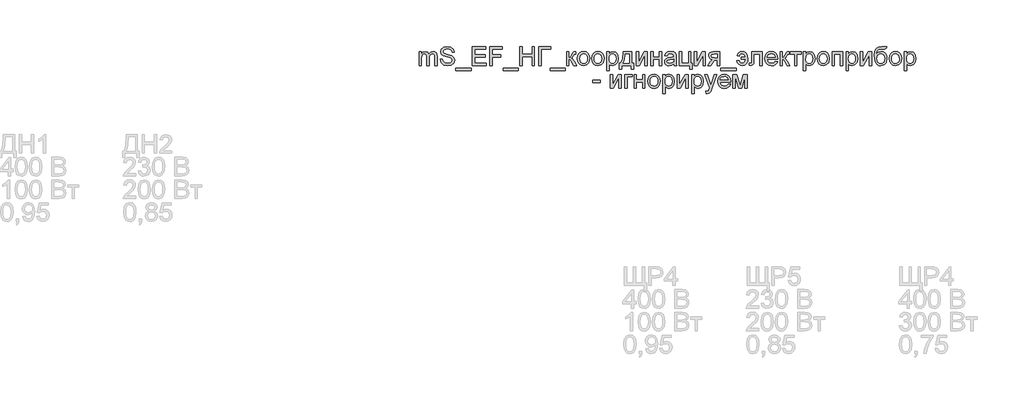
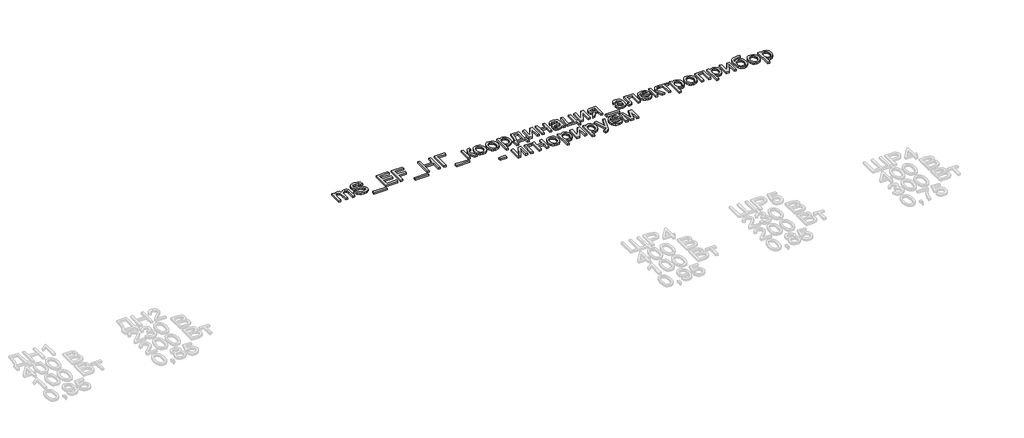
# One storey, part 2 of 3: 1 proxy.
"""IFC4 building model written with IfcOpenShell, lengths in millimetres."""

from ifc_helpers import new_model, si_unit, origin, origin_with_axes, place, context, project, spatial, polyline, outline, extrude, element, save

model = new_model("IFC4")

# Units and contexts
model_context = context("Model", 3, world=origin())
ifc_project = project(units=[si_unit("LENGTHUNIT", "METRE", prefix="MILLI")], contexts=[model_context])

# Site, building, storey
site = spatial("IfcSite", under=ifc_project)
building = spatial("IfcBuilding", under=site)
storey = spatial("IfcBuildingStorey", under=building, Name="Координационный план", Elevation=0.0)

# Proxy
placement = place(None, origin())
element("IfcBuildingElementProxy", 1, Name="100 мм Arial 2", ObjectType="100 мм Arial 2", at=placement, inside=storey, context=model_context, shape_type="SweptSolid", body=[
    extrude(outline(polyline([(14141.8426435, 2862.1625986), (14141.8426435, 2935.9352014), (14154.3996822, 2935.9352014), (14154.3996822, 2923.7950956), (14163.0326464, 2933.7401722), (14175.319905, 2937.5048313), (14187.9014693, 2933.6665958), (14194.8176508, 2922.9121788), (14204.6155746, 2933.8566681), (14216.9886723, 2937.5048313), (14226.4279112, 2935.987318), (14233.4084721, 2931.4347783), (14237.7218885, 2923.7245848), (14239.1596939, 2912.7341102), (14239.1596939, 2862.1625986), (14226.6026552, 2862.1625986), (14226.6026552, 2907.3385076), (14225.4376955, 2917.8231445), (14221.2193153, 2922.9857552), (14214.0456164, 2924.9477925), (14201.6970441, 2919.9200719), (14198.0090271, 2913.3779037), (14196.7796881, 2903.8068405), (14196.7796881, 2862.1625986), (14184.2226493, 2862.1625986), (14184.2226493, 2908.7364592), (14181.3163815, 2920.9010905), (14171.7882379, 2924.9477925), (14162.4930861, 2922.2499912), (14156.3126686, 2914.352791), (14154.3996822, 2899.3677311), (14154.3996822, 2862.1625986), (14141.8426435, 2862.1625986)])), origin_with_axes(), (0.0, 0.0, 1.0), 10.0),
    extrude(outline(polyline([(14254.8559924, 2896.6944553), (14267.4130312, 2896.6944553), (14271.4597331, 2884.1251538), (14281.343496, 2876.1789027), (14296.4021324, 2873.1500076), (14309.5232569, 2875.4431387), (14317.9968055, 2881.7461835), (14320.7804459, 2890.1706812), (14318.6957813, 2898.0065677), (14310.160919, 2903.7087386), (14291.8771838, 2908.5034673), (14272.1954971, 2914.6961476), (14261.5146565, 2924.0403502), (14257.9952521, 2936.5238126), (14262.3485224, 2950.7363203), (14275.0649767, 2960.7672361), (14293.6798056, 2964.1885386), (14313.5454333, 2960.6078205), (14326.7891852, 2950.0863955), (14331.7678548, 2934.3655716), (14319.2108161, 2934.3655716), (14316.9054222, 2941.8581015), (14312.0984308, 2947.2659669), (14294.1703149, 2951.6314999), (14276.1931481, 2947.3150178), (14270.5522908, 2936.8916946), (14274.5499419, 2928.185154), (14295.0532317, 2921.1708707), (14317.2733042, 2914.8678258), (14329.4256728, 2904.6897573), (14333.3374847, 2890.4895123), (14328.8370616, 2875.4676641), (14315.8876154, 2864.5047807), (14296.8926417, 2860.5929688), (14274.4641027, 2864.811349), (14260.2761204, 2877.5155406), (14254.8559924, 2896.6944553)])), origin_with_axes(), (0.0, 0.0, 1.0), 10.0),
    extrude(outline(polyline([(14339.6160041, 2833.9092614), (14339.6160041, 2846.4663002), (14421.2367561, 2846.4663002), (14421.2367561, 2833.9092614), (14339.6160041, 2833.9092614)])), origin_with_axes(), (0.0, 0.0, 1.0), 10.0),
    extrude(outline(polyline([(14429.0849053, 2862.1625986), (14429.0849053, 2962.6189088), (14501.2878782, 2962.6189088), (14501.2878782, 2950.06187), (14441.6419441, 2950.06187), (14441.6419441, 2920.2389029), (14498.1486185, 2920.2389029), (14498.1486185, 2907.6818642), (14441.6419441, 2907.6818642), (14441.6419441, 2874.7196374), (14502.8575081, 2874.7196374), (14502.8575081, 2862.1625986), (14429.0849053, 2862.1625986)])), origin_with_axes(), (0.0, 0.0, 1.0), 10.0),
    extrude(outline(polyline([(14521.6930662, 2862.1625986), (14521.6930662, 2962.6189088), (14589.1871496, 2962.6189088), (14589.1871496, 2950.06187), (14534.250105, 2950.06187), (14534.250105, 2920.2389029), (14581.3390004, 2920.2389029), (14581.3390004, 2907.6818642), (14534.250105, 2907.6818642), (14534.250105, 2862.1625986), (14521.6930662, 2862.1625986)])), origin_with_axes(), (0.0, 0.0, 1.0), 10.0),
    extrude(outline(polyline([(14593.8960391, 2833.9092614), (14593.8960391, 2846.4663002), (14675.5167911, 2846.4663002), (14675.5167911, 2833.9092614), (14593.8960391, 2833.9092614)])), origin_with_axes(), (0.0, 0.0, 1.0), 10.0),
    extrude(outline(polyline([(14683.3649404, 2862.1625986), (14683.3649404, 2962.6189088), (14695.9219791, 2962.6189088), (14695.9219791, 2921.8085328), (14749.2893939, 2921.8085328), (14749.2893939, 2962.6189088), (14761.8464327, 2962.6189088), (14761.8464327, 2862.1625986), (14749.2893939, 2862.1625986), (14749.2893939, 2909.251494), (14695.9219791, 2909.251494), (14695.9219791, 2862.1625986), (14683.3649404, 2862.1625986)])), origin_with_axes(), (0.0, 0.0, 1.0), 10.0),
    extrude(outline(polyline([(14785.3908804, 2962.6189088), (14848.1760742, 2962.6189088), (14848.1760742, 2950.06187), (14797.9479191, 2950.06187), (14797.9479191, 2862.1625986), (14785.3908804, 2862.1625986), (14785.3908804, 2962.6189088)])), origin_with_axes(), (0.0, 0.0, 1.0), 10.0),
    extrude(outline(polyline([(14846.6064444, 2833.9092614), (14846.6064444, 2846.4663002), (14928.2271964, 2846.4663002), (14928.2271964, 2833.9092614), (14846.6064444, 2833.9092614)])), origin_with_axes(), (0.0, 0.0, 1.0), 10.0),
    extrude(outline(polyline([(14934.5057157, 2935.9352014), (14947.0627545, 2935.9352014), (14947.0627545, 2904.5426045), (14955.4749895, 2906.7989474), (14962.3666455, 2919.9445973), (14968.0933419, 2931.2876255), (14973.145588, 2934.9787082), (14982.3303751, 2935.9352014), (14984.7338708, 2935.9352014), (14984.7338708, 2923.3045862), (14981.3493565, 2923.3781626), (14975.2179899, 2922.0537875), (14970.9015078, 2913.7887053), (14965.836999, 2904.8491728), (14958.7368765, 2900.4713771), (14966.6586021, 2895.5846779), (14974.4331749, 2885.2901134), (14987.8731305, 2862.1625986), (14973.5993091, 2862.1625986), (14960.4291337, 2884.7996041), (14953.8072578, 2894.3767987), (14947.0627545, 2896.6944553), (14947.0627545, 2862.1625986), (14934.5057157, 2862.1625986), (14934.5057157, 2935.9352014)])), origin_with_axes(), (0.0, 0.0, 1.0), 10.0),
    extrude(outline(polyline([(14992.58202, 2899.0489), (14995.2982154, 2916.8359945), (15003.4468016, 2929.337851), (15013.5145056, 2935.4630862), (15025.5687723, 2937.5048313), (15038.7604075, 2935.0185621), (15049.297161, 2927.5597546), (15056.2041454, 2915.7170201), (15058.5064736, 2900.0789696), (15054.4352462, 2877.7362698), (15042.5771832, 2865.0933919), (15025.5687723, 2860.5929688), (15012.2177215, 2863.0700409), (15001.6932308, 2870.5012572), (14994.8598227, 2882.5923121), (14992.58202, 2899.0489)]), holes=[polyline([(15005.1390588, 2899.0734255), (15006.5921927, 2887.7089375), (15010.9515943, 2879.6124679), (15017.5121566, 2874.7656227), (15025.5687723, 2873.1500076), (15033.5885998, 2874.7748197), (15040.1368993, 2879.6492561), (15044.4963009, 2887.8530246), (15045.9494348, 2899.4658329), (15044.4871039, 2910.4992271), (15040.1001111, 2918.4853321), (15033.5426145, 2923.3321774), (15025.5687723, 2924.9477925), (15017.5121566, 2923.3383088), (15010.9515943, 2918.5098576), (15006.5921927, 2910.4317821), (15005.1390588, 2899.0734255)])]), origin_with_axes(), (0.0, 0.0, 1.0), 10.0),
    extrude(outline(polyline([(15069.4938825, 2899.0489), (15072.2100779, 2916.8359945), (15080.3586641, 2929.337851), (15090.426368, 2935.4630862), (15102.4806347, 2937.5048313), (15115.6722699, 2935.0185621), (15126.2090234, 2927.5597546), (15133.1160079, 2915.7170201), (15135.418336, 2900.0789696), (15131.3471086, 2877.7362698), (15119.4890456, 2865.0933919), (15102.4806347, 2860.5929688), (15089.129584, 2863.0700409), (15078.6050932, 2870.5012572), (15071.7716852, 2882.5923121), (15069.4938825, 2899.0489)]), holes=[polyline([(15082.0509213, 2899.0734255), (15083.5040552, 2887.7089375), (15087.8634568, 2879.6124679), (15094.424019, 2874.7656227), (15102.4806347, 2873.1500076), (15110.5004622, 2874.7748197), (15117.0487617, 2879.6492561), (15121.4081634, 2887.8530246), (15122.8612973, 2899.4658329), (15121.3989663, 2910.4992271), (15117.0119735, 2918.4853321), (15110.454477, 2923.3321774), (15102.4806347, 2924.9477925), (15094.424019, 2923.3383088), (15087.8634568, 2918.5098576), (15083.5040552, 2910.4317821), (15082.0509213, 2899.0734255)])]), origin_with_axes(), (0.0, 0.0, 1.0), 10.0),
    extrude(outline(polyline([(15149.5450047, 2833.9092614), (15149.5450047, 2935.9352014), (15162.1020434, 2935.9352014), (15162.1020434, 2923.6234173), (15170.7840585, 2934.0344778), (15182.5072314, 2937.5048313), (15198.4242591, 2932.6487889), (15208.8230568, 2918.9635787), (15212.3301985, 2899.6129857), (15208.3693357, 2879.2691114), (15196.866892, 2865.4122229), (15180.9866525, 2860.5929688), (15170.0605573, 2863.8180676), (15162.1020434, 2871.9727852), (15162.1020434, 2833.9092614), (15149.5450047, 2833.9092614)]), holes=[polyline([(15162.1020434, 2898.4602888), (15163.4601411, 2887.2030998), (15167.5344342, 2879.3304251), (15173.5462392, 2874.6951119), (15180.7168724, 2873.1500076), (15188.0040016, 2874.7502942), (15194.1690907, 2879.5511543), (15198.3721425, 2887.7120032), (15199.7731597, 2899.3922566), (15198.405865, 2910.5881319), (15194.3039807, 2918.5711712), (15188.3013728, 2923.3536372), (15181.2319072, 2924.9477925), (15174.1348503, 2923.2524696), (15167.9023162, 2918.166501), (15163.5521116, 2909.8493023), (15162.1020434, 2898.4602888)])]), origin_with_axes(), (0.0, 0.0, 1.0), 10.0),
    extrude(outline(polyline([(15237.444276, 2935.9352014), (15284.5331714, 2935.9352014), (15284.5331714, 2874.7196374), (15293.9509505, 2874.7196374), (15293.9509505, 2841.7574106), (15281.3939117, 2841.7574106), (15281.3939117, 2862.1625986), (15229.5961268, 2862.1625986), (15229.5961268, 2841.7574106), (15217.039088, 2841.7574106), (15217.039088, 2874.7196374), (15224.8872373, 2874.7196374), (15234.5870592, 2898.6687553), (15237.444276, 2935.9352014)]), holes=[polyline([(15248.431685, 2923.3781626), (15245.488629, 2894.7692061), (15239.0139059, 2874.7196374), (15271.9761326, 2874.7196374), (15271.9761326, 2923.3781626), (15248.431685, 2923.3781626)])]), origin_with_axes(), (0.0, 0.0, 1.0), 10.0),
    extrude(outline(polyline([(15308.0776191, 2935.9352014), (15320.6346579, 2935.9352014), (15320.6346579, 2879.6737816), (15351.4876945, 2935.9352014), (15367.7235533, 2935.9352014), (15367.7235533, 2862.1625986), (15355.1665145, 2862.1625986), (15355.1665145, 2918.0806619), (15324.5096816, 2862.1625986), (15308.0776191, 2862.1625986), (15308.0776191, 2935.9352014)])), origin_with_axes(), (0.0, 0.0, 1.0), 10.0),
    extrude(outline(polyline([(15386.5591114, 2935.9352014), (15399.1161502, 2935.9352014), (15399.1161502, 2907.6818642), (15432.0783769, 2907.6818642), (15432.0783769, 2935.9352014), (15444.6354157, 2935.9352014), (15444.6354157, 2862.1625986), (15432.0783769, 2862.1625986), (15432.0783769, 2895.1248254), (15399.1161502, 2895.1248254), (15399.1161502, 2862.1625986), (15386.5591114, 2862.1625986), (15386.5591114, 2935.9352014)])), origin_with_axes(), (0.0, 0.0, 1.0), 10.0),
    extrude(outline(polyline([(15510.5598693, 2871.5803777), (15498.3829752, 2863.0700409), (15484.9307569, 2860.5929688), (15474.436923, 2862.0828909), (15466.6960727, 2866.5526571), (15461.9228038, 2873.3400799), (15460.3317142, 2881.7829717), (15462.7352099, 2891.7157856), (15469.0505175, 2898.9262727), (15477.8428971, 2903.046551), (15488.7076787, 2904.9350119), (15510.4862929, 2909.251494), (15510.5598693, 2912.0473972), (15507.1017785, 2921.3180235), (15493.2203645, 2924.9477925), (15480.516173, 2922.532034), (15474.4583828, 2913.9603836), (15461.901344, 2915.5300134), (15467.3337348, 2927.7927466), (15478.2720928, 2934.9787082), (15494.8390453, 2937.5048313), (15510.0570972, 2935.2730138), (15518.6532731, 2929.6689448), (15522.5037714, 2921.1463452), (15523.116908, 2910.1589363), (15523.116908, 2894.5362142), (15523.7545701, 2872.7208119), (15526.2561677, 2862.1625986), (15513.6991289, 2862.1625986), (15510.5598693, 2871.5803777)]), holes=[polyline([(15510.5598693, 2896.6944553), (15490.3018341, 2892.843957), (15479.4983661, 2890.8083433), (15474.6055356, 2887.4974054), (15472.8887529, 2882.6658885), (15476.6288866, 2875.8723343), (15487.6040328, 2873.1500076), (15500.3082243, 2876.1543772), (15508.4997301, 2883.426178), (15510.4862929, 2893.1382626), (15510.5598693, 2896.6944553)])]), origin_with_axes(), (0.0, 0.0, 1.0), 10.0),
    extrude(outline(polyline([(15540.3828363, 2935.9352014), (15552.9398751, 2935.9352014), (15552.9398751, 2874.7196374), (15589.0413616, 2874.7196374), (15589.0413616, 2935.9352014), (15601.5984003, 2935.9352014), (15601.5984003, 2874.7196374), (15609.4465496, 2874.7196374), (15609.4465496, 2841.7574106), (15596.8895108, 2841.7574106), (15596.8895108, 2862.1625986), (15540.3828363, 2862.1625986), (15540.3828363, 2935.9352014)])), origin_with_axes(), (0.0, 0.0, 1.0), 10.0),
    extrude(outline(polyline([(15620.4339585, 2935.9352014), (15632.9909972, 2935.9352014), (15632.9909972, 2879.6737816), (15663.8440339, 2935.9352014), (15680.0798926, 2935.9352014), (15680.0798926, 2862.1625986), (15667.5228539, 2862.1625986), (15667.5228539, 2918.0806619), (15636.8660209, 2862.1625986), (15620.4339585, 2862.1625986), (15620.4339585, 2935.9352014)])), origin_with_axes(), (0.0, 0.0, 1.0), 10.0),
    extrude(outline(polyline([(15755.4221252, 2935.9352014), (15755.4221252, 2862.1625986), (15742.8650865, 2862.1625986), (15742.8650865, 2890.4159359), (15736.0224814, 2890.4159359), (15726.7028042, 2888.8217806), (15717.9472127, 2878.1041518), (15707.9408224, 2862.1625986), (15693.4217463, 2862.1625986), (15706.027836, 2882.322532), (15716.7209393, 2892.7703806), (15708.1370261, 2895.4007369), (15702.1037614, 2900.3978007), (15697.3458209, 2914.6225712), (15698.9706331, 2923.2187471), (15703.8450695, 2930.024564), (15711.797452, 2934.4575421), (15722.6561022, 2935.9352014), (15755.4221252, 2935.9352014)]), holes=[polyline([(15742.8650865, 2923.3781626), (15726.3103967, 2923.3781626), (15712.9072293, 2920.4718949), (15709.9028597, 2913.666078), (15714.3297064, 2905.5604113), (15730.0137421, 2902.9729746), (15742.8650865, 2902.9729746), (15742.8650865, 2923.3781626)])]), origin_with_axes(), (0.0, 0.0, 1.0), 10.0),
    extrude(outline(polyline([(15763.2702745, 2833.9092614), (15763.2702745, 2846.4663002), (15844.8910265, 2846.4663002), (15844.8910265, 2833.9092614), (15763.2702745, 2833.9092614)])), origin_with_axes(), (0.0, 0.0, 1.0), 10.0),
    extrude(outline(polyline([(15871.5747339, 2907.6818642), (15895.1191815, 2907.6818642), (15889.4415361, 2920.1530638), (15877.5098967, 2924.9477925), (15867.3318282, 2921.8085328), (15862.1569548, 2912.3907537), (15849.599916, 2913.9603836), (15852.5276436, 2923.3873597), (15858.2206174, 2930.9197435), (15866.3906634, 2935.8585593), (15876.7496073, 2937.5048313), (15889.5672291, 2934.94192), (15899.37435, 2927.2531863), (15905.6007527, 2915.0762923), (15907.6762203, 2899.0489), (15905.9625034, 2883.0950842), (15900.0365375, 2870.5503081), (15890.352044, 2862.6408452), (15877.3627439, 2860.5929688), (15866.2281822, 2862.4293131), (15857.4480652, 2867.938346), (15851.2921732, 2876.4456171), (15848.0302862, 2887.2766762), (15860.5873249, 2888.846306), (15865.9951903, 2877.0740822), (15877.1665402, 2873.1500076), (15884.2605313, 2874.5234337), (15889.6009516, 2878.643712), (15895.1191815, 2895.1248254), (15871.5747339, 2895.1248254), (15871.5747339, 2907.6818642)])), origin_with_axes(), (0.0, 0.0, 1.0), 10.0),
    extrude(outline(polyline([(15928.0814083, 2935.9352014), (15984.5880828, 2935.9352014), (15984.5880828, 2862.236175), (15972.031044, 2862.236175), (15972.031044, 2923.3781626), (15940.6384471, 2923.3781626), (15940.6384471, 2888.1841184), (15939.7923185, 2871.9482597), (15935.1447426, 2865.0933919), (15924.1573337, 2862.1625986), (15913.9547397, 2862.8002608), (15913.9547397, 2874.7196374), (15919.5710715, 2874.7196374), (15925.2487169, 2875.4921896), (15927.5173226, 2877.9447362), (15928.0814083, 2888.895357), (15928.0814083, 2935.9352014)])), origin_with_axes(), (0.0, 0.0, 1.0), 10.0),
    extrude(outline(polyline([(16055.074273, 2884.1374165), (16067.3860572, 2882.5677866), (16062.9500134, 2873.291029), (16055.8713507, 2866.3564534), (16046.3094845, 2862.0338399), (16034.4238304, 2860.5929688), (16019.6901565, 2863.0792379), (16008.3532597, 2870.5380454), (16001.1243785, 2882.4850132), (15998.7147514, 2898.4357634), (16001.1489039, 2914.9230081), (16008.4513615, 2927.2531863), (16019.6349742, 2934.94192), (16033.7125919, 2937.5048313), (16047.3518168, 2934.9480514), (16058.2503209, 2927.2777118), (16065.3964287, 2914.972059), (16067.7784646, 2898.5093398), (16067.7048882, 2895.1248254), (16011.2717902, 2895.1248254), (16013.4453596, 2885.7254404), (16018.49454, 2878.8153903), (16025.7816692, 2874.5663532), (16034.669085, 2873.1500076), (16046.9808692, 2875.7742325), (16055.074273, 2884.1374165)]), holes=[polyline([(16011.2717902, 2907.6818642), (16055.2214258, 2907.6818642), (16050.1937052, 2919.0616806), (16042.8728535, 2923.4762645), (16033.6635409, 2924.9477925), (16018.2002344, 2920.2511657), (16013.334995, 2914.7605269), (16011.2717902, 2907.6818642)])]), origin_with_axes(), (0.0, 0.0, 1.0), 10.0),
    extrude(outline(polyline([(16080.3355034, 2935.9352014), (16092.8925422, 2935.9352014), (16092.8925422, 2904.5426045), (16101.3047771, 2906.7989474), (16108.1964332, 2919.9445973), (16113.9231295, 2931.2876255), (16118.9753756, 2934.9787082), (16128.1601628, 2935.9352014), (16130.5636585, 2935.9352014), (16130.5636585, 2923.3045862), (16127.1791441, 2923.3781626), (16121.0477775, 2922.0537875), (16116.7312954, 2913.7887053), (16111.6667866, 2904.8491728), (16104.5666641, 2900.4713771), (16112.4883898, 2895.5846779), (16120.2629626, 2885.2901134), (16133.7029181, 2862.1625986), (16119.4290967, 2862.1625986), (16106.2589213, 2884.7996041), (16099.6370454, 2894.3767987), (16092.8925422, 2896.6944553), (16092.8925422, 2862.1625986), (16080.3355034, 2862.1625986), (16080.3355034, 2935.9352014)])), origin_with_axes(), (0.0, 0.0, 1.0), 10.0),
    extrude(outline(polyline([(16135.272548, 2935.9352014), (16194.9184821, 2935.9352014), (16194.9184821, 2923.3781626), (16171.3740345, 2923.3781626), (16171.3740345, 2862.1625986), (16158.8169957, 2862.1625986), (16158.8169957, 2923.3781626), (16135.272548, 2923.3781626), (16135.272548, 2935.9352014)])), origin_with_axes(), (0.0, 0.0, 1.0), 10.0),
    extrude(outline(polyline([(16205.9058911, 2833.9092614), (16205.9058911, 2935.9352014), (16218.4629298, 2935.9352014), (16218.4629298, 2923.6234173), (16227.1449449, 2934.0344778), (16238.8681178, 2937.5048313), (16254.7851455, 2932.6487889), (16265.1839432, 2918.9635787), (16268.6910849, 2899.6129857), (16264.7302221, 2879.2691114), (16253.2277784, 2865.4122229), (16237.3475389, 2860.5929688), (16226.4214437, 2863.8180676), (16218.4629298, 2871.9727852), (16218.4629298, 2833.9092614), (16205.9058911, 2833.9092614)]), holes=[polyline([(16218.4629298, 2898.4602888), (16219.8210275, 2887.2030998), (16223.8953206, 2879.3304251), (16229.9071256, 2874.6951119), (16237.0777588, 2873.1500076), (16244.364888, 2874.7502942), (16250.5299771, 2879.5511543), (16254.7330289, 2887.7120032), (16256.1340461, 2899.3922566), (16254.7667514, 2910.5881319), (16250.6648671, 2918.5711712), (16244.6622593, 2923.3536372), (16237.5927936, 2924.9477925), (16230.4957368, 2923.2524696), (16224.2632026, 2918.166501), (16219.912998, 2909.8493023), (16218.4629298, 2898.4602888)])]), origin_with_axes(), (0.0, 0.0, 1.0), 10.0),
    extrude(outline(polyline([(16279.6784938, 2899.0489), (16282.3946892, 2916.8359945), (16290.5432754, 2929.337851), (16300.6109794, 2935.4630862), (16312.6652461, 2937.5048313), (16325.8568813, 2935.0185621), (16336.3936348, 2927.5597546), (16343.3006192, 2915.7170201), (16345.6029474, 2900.0789696), (16341.53172, 2877.7362698), (16329.673657, 2865.0933919), (16312.6652461, 2860.5929688), (16299.3141953, 2863.0700409), (16288.7897046, 2870.5012572), (16281.9562965, 2882.5923121), (16279.6784938, 2899.0489)]), holes=[polyline([(16292.2355326, 2899.0734255), (16293.6886665, 2887.7089375), (16298.0480681, 2879.6124679), (16304.6086304, 2874.7656227), (16312.6652461, 2873.1500076), (16320.6850736, 2874.7748197), (16327.2333731, 2879.6492561), (16331.5927747, 2887.8530246), (16333.0459086, 2899.4658329), (16331.5835777, 2910.4992271), (16327.1965849, 2918.4853321), (16320.6390883, 2923.3321774), (16312.6652461, 2924.9477925), (16304.6086304, 2923.3383088), (16298.0480681, 2918.5098576), (16293.6886665, 2910.4317821), (16292.2355326, 2899.0734255)])]), origin_with_axes(), (0.0, 0.0, 1.0), 10.0),
    extrude(outline(polyline([(16359.729616, 2935.9352014), (16416.2362904, 2935.9352014), (16416.2362904, 2862.1625986), (16403.6792517, 2862.1625986), (16403.6792517, 2923.3781626), (16372.2866548, 2923.3781626), (16372.2866548, 2862.1625986), (16359.729616, 2862.1625986), (16359.729616, 2935.9352014)])), origin_with_axes(), (0.0, 0.0, 1.0), 10.0),
    extrude(outline(polyline([(16435.0718486, 2833.9092614), (16435.0718486, 2935.9352014), (16447.6288874, 2935.9352014), (16447.6288874, 2923.6234173), (16456.3109025, 2934.0344778), (16468.0340754, 2937.5048313), (16483.951103, 2932.6487889), (16494.3499008, 2918.9635787), (16497.8570424, 2899.6129857), (16493.8961796, 2879.2691114), (16482.3937359, 2865.4122229), (16466.5134965, 2860.5929688), (16455.5874012, 2863.8180676), (16447.6288874, 2871.9727852), (16447.6288874, 2833.9092614), (16435.0718486, 2833.9092614)]), holes=[polyline([(16447.6288874, 2898.4602888), (16448.9869851, 2887.2030998), (16453.0612782, 2879.3304251), (16459.0730831, 2874.6951119), (16466.2437163, 2873.1500076), (16473.5308455, 2874.7502942), (16479.6959346, 2879.5511543), (16483.8989864, 2887.7120032), (16485.3000037, 2899.3922566), (16483.9327089, 2910.5881319), (16479.8308247, 2918.5711712), (16473.8282168, 2923.3536372), (16466.7587511, 2924.9477925), (16459.6616943, 2923.2524696), (16453.4291602, 2918.166501), (16449.0789556, 2909.8493023), (16447.6288874, 2898.4602888)])]), origin_with_axes(), (0.0, 0.0, 1.0), 10.0),
    extrude(outline(polyline([(16511.9837111, 2935.9352014), (16524.5407498, 2935.9352014), (16524.5407498, 2879.6737816), (16555.3937865, 2935.9352014), (16571.6296452, 2935.9352014), (16571.6296452, 2862.1625986), (16559.0726064, 2862.1625986), (16559.0726064, 2918.0806619), (16528.4157735, 2862.1625986), (16511.9837111, 2862.1625986), (16511.9837111, 2935.9352014)])), origin_with_axes(), (0.0, 0.0, 1.0), 10.0),
    extrude(outline(polyline([(16642.2629883, 2964.1885386), (16653.2503972, 2964.1885386), (16650.0130356, 2954.3906148), (16643.6118889, 2950.8466849), (16628.2344215, 2950.06187), (16607.5226652, 2947.167865), (16599.5764141, 2937.8972387), (16596.8908755, 2921.4897017), (16607.7679199, 2933.5071802), (16621.7842239, 2937.5048313), (16634.8501661, 2934.9633798), (16645.4512989, 2927.3390255), (16652.477845, 2915.3797949), (16654.8200271, 2899.8337149), (16650.1724512, 2878.2267791), (16639.1482541, 2865.1914937), (16621.7842239, 2860.5929688), (16610.4503927, 2862.0736938), (16601.9553843, 2866.5158689), (16591.1028655, 2881.6726071), (16587.3259437, 2913.8377562), (16589.7079796, 2937.9309612), (16596.8540873, 2952.6247813), (16608.9420766, 2960.1203769), (16626.1497569, 2962.6189088), (16640.1292727, 2962.9009517), (16642.2629883, 2964.1885386)]), holes=[polyline([(16642.2629883, 2900.2261224), (16640.9018249, 2910.1068197), (16636.8183348, 2918.0193482), (16630.2577725, 2923.2156814), (16621.4653928, 2924.9477925), (16612.2989998, 2923.1175796), (16605.4993142, 2917.6269408), (16601.2870654, 2909.0767501), (16599.8829824, 2898.0678814), (16601.4342182, 2887.3962378), (16606.0879254, 2879.563417), (16613.0163697, 2874.7533599), (16621.3918164, 2873.1500076), (16629.8101827, 2875.004746), (16636.4749782, 2880.5689611), (16640.8159858, 2889.1927282), (16642.2629883, 2900.2261224)])]), origin_with_axes(), (0.0, 0.0, 1.0), 10.0),
    extrude(outline(polyline([(16667.3770658, 2899.0489), (16670.0932612, 2916.8359945), (16678.2418474, 2929.337851), (16688.3095513, 2935.4630862), (16700.3638181, 2937.5048313), (16713.5554533, 2935.0185621), (16724.0922067, 2927.5597546), (16730.9991912, 2915.7170201), (16733.3015194, 2900.0789696), (16729.2302919, 2877.7362698), (16717.372229, 2865.0933919), (16700.3638181, 2860.5929688), (16687.0127673, 2863.0700409), (16676.4882766, 2870.5012572), (16669.6548685, 2882.5923121), (16667.3770658, 2899.0489)]), holes=[polyline([(16679.9341046, 2899.0734255), (16681.3872385, 2887.7089375), (16685.7466401, 2879.6124679), (16692.3072024, 2874.7656227), (16700.3638181, 2873.1500076), (16708.3836455, 2874.7748197), (16714.9319451, 2879.6492561), (16719.2913467, 2887.8530246), (16720.7444806, 2899.4658329), (16719.2821497, 2910.4992271), (16714.8951569, 2918.4853321), (16708.3376603, 2923.3321774), (16700.3638181, 2924.9477925), (16692.3072024, 2923.3383088), (16685.7466401, 2918.5098576), (16681.3872385, 2910.4317821), (16679.9341046, 2899.0734255)])]), origin_with_axes(), (0.0, 0.0, 1.0), 10.0),
    extrude(outline(polyline([(16747.428188, 2833.9092614), (16747.428188, 2935.9352014), (16759.9852267, 2935.9352014), (16759.9852267, 2923.6234173), (16768.6672418, 2934.0344778), (16780.3904147, 2937.5048313), (16796.3074424, 2932.6487889), (16806.7062401, 2918.9635787), (16810.2133818, 2899.6129857), (16806.252519, 2879.2691114), (16794.7500753, 2865.4122229), (16778.8698358, 2860.5929688), (16767.9437406, 2863.8180676), (16759.9852267, 2871.9727852), (16759.9852267, 2833.9092614), (16747.428188, 2833.9092614)]), holes=[polyline([(16759.9852267, 2898.4602888), (16761.3433244, 2887.2030998), (16765.4176175, 2879.3304251), (16771.4294225, 2874.6951119), (16778.6000557, 2873.1500076), (16785.8871849, 2874.7502942), (16792.052274, 2879.5511543), (16796.2553258, 2887.7120032), (16797.656343, 2899.3922566), (16796.2890483, 2910.5881319), (16792.187164, 2918.5711712), (16786.1845562, 2923.3536372), (16779.1150905, 2924.9477925), (16772.0180337, 2923.2524696), (16765.7854995, 2918.166501), (16761.4352949, 2909.8493023), (16759.9852267, 2898.4602888)])]), origin_with_axes(), (0.0, 0.0, 1.0), 10.0),
    extrude(outline(polyline([(15075.7724019, 2770.0107479), (15075.7724019, 2782.5677866), (15115.013148, 2782.5677866), (15115.013148, 2770.0107479), (15075.7724019, 2770.0107479)])), origin_with_axes(), (0.0, 0.0, 1.0), 10.0),
    extrude(outline(polyline([(15168.3805628, 2813.9603836), (15180.9376016, 2813.9603836), (15180.9376016, 2757.6989638), (15211.7906382, 2813.9603836), (15228.026497, 2813.9603836), (15228.026497, 2740.1877808), (15215.4694582, 2740.1877808), (15215.4694582, 2796.1058441), (15184.8126253, 2740.1877808), (15168.3805628, 2740.1877808), (15168.3805628, 2813.9603836)])), origin_with_axes(), (0.0, 0.0, 1.0), 10.0),
    extrude(outline(polyline([(15246.8620551, 2813.9603836), (15287.6724311, 2813.9603836), (15287.6724311, 2801.4033448), (15259.4190939, 2801.4033448), (15259.4190939, 2740.1877808), (15246.8620551, 2740.1877808), (15246.8620551, 2813.9603836)])), origin_with_axes(), (0.0, 0.0, 1.0), 10.0),
    extrude(outline(polyline([(15297.0902102, 2813.9603836), (15309.647249, 2813.9603836), (15309.647249, 2785.7070463), (15342.6094757, 2785.7070463), (15342.6094757, 2813.9603836), (15355.1665145, 2813.9603836), (15355.1665145, 2740.1877808), (15342.6094757, 2740.1877808), (15342.6094757, 2773.1500076), (15309.647249, 2773.1500076), (15309.647249, 2740.1877808), (15297.0902102, 2740.1877808), (15297.0902102, 2813.9603836)])), origin_with_axes(), (0.0, 0.0, 1.0), 10.0),
    extrude(outline(polyline([(15370.862813, 2777.0740822), (15373.5790083, 2794.8611766), (15381.7275945, 2807.3630331), (15391.7952985, 2813.4882683), (15403.8495652, 2815.5300134), (15417.0412004, 2813.0437443), (15427.5779539, 2805.5849368), (15434.4849383, 2793.7422022), (15436.7872665, 2778.1041518), (15432.7160391, 2755.7614519), (15420.8579761, 2743.118574), (15403.8495652, 2738.6181509), (15390.4985144, 2741.095223), (15379.9740237, 2748.5264394), (15373.1406156, 2760.6174943), (15370.862813, 2777.0740822)]), holes=[polyline([(15383.4198517, 2777.0986076), (15384.8729856, 2765.7341197), (15389.2323872, 2757.6376501), (15395.7929495, 2752.7908048), (15403.8495652, 2751.1751897), (15411.8693927, 2752.8000019), (15418.4176922, 2757.6744383), (15422.7770938, 2765.8782068), (15424.2302277, 2777.4910151), (15422.7678968, 2788.5244093), (15418.380904, 2796.5105143), (15411.8234074, 2801.3573595), (15403.8495652, 2802.9729746), (15395.7929495, 2801.3634909), (15389.2323872, 2796.5350397), (15384.8729856, 2788.4569642), (15383.4198517, 2777.0986076)])]), origin_with_axes(), (0.0, 0.0, 1.0), 10.0),
    extrude(outline(polyline([(15450.9139351, 2711.9344436), (15450.9139351, 2813.9603836), (15463.4709739, 2813.9603836), (15463.4709739, 2801.6485995), (15472.152989, 2812.0596599), (15483.8761619, 2815.5300134), (15499.7931895, 2810.6739711), (15510.1919873, 2796.9887608), (15513.6991289, 2777.6381679), (15509.7382661, 2757.2942936), (15498.2358224, 2743.4374051), (15482.355583, 2738.6181509), (15471.4294877, 2741.8432498), (15463.4709739, 2749.9979673), (15463.4709739, 2711.9344436), (15450.9139351, 2711.9344436)]), holes=[polyline([(15463.4709739, 2776.485471), (15464.8290716, 2765.2282819), (15468.9033647, 2757.3556072), (15474.9151696, 2752.7202941), (15482.0858028, 2751.1751897), (15489.372932, 2752.7754764), (15495.5380211, 2757.5763364), (15499.7410729, 2765.7371854), (15501.1420902, 2777.4174387), (15499.7747954, 2788.6133141), (15495.6729112, 2796.5963534), (15489.6703033, 2801.3788193), (15482.6008376, 2802.9729746), (15475.5037808, 2801.2776518), (15469.2712467, 2796.1916832), (15464.9210421, 2787.8744844), (15463.4709739, 2776.485471)])]), origin_with_axes(), (0.0, 0.0, 1.0), 10.0),
    extrude(outline(polyline([(15527.8257976, 2813.9603836), (15540.3828363, 2813.9603836), (15540.3828363, 2757.6989638), (15571.235873, 2813.9603836), (15587.4717317, 2813.9603836), (15587.4717317, 2740.1877808), (15574.9146929, 2740.1877808), (15574.9146929, 2796.1058441), (15544.25786, 2740.1877808), (15527.8257976, 2740.1877808), (15527.8257976, 2813.9603836)])), origin_with_axes(), (0.0, 0.0, 1.0), 10.0),
    extrude(outline(polyline([(15606.3072899, 2711.9344436), (15606.3072899, 2813.9603836), (15618.8643286, 2813.9603836), (15618.8643286, 2801.6485995), (15627.5463437, 2812.0596599), (15639.2695166, 2815.5300134), (15655.1865443, 2810.6739711), (15665.585342, 2796.9887608), (15669.0924837, 2777.6381679), (15665.1316209, 2757.2942936), (15653.6291772, 2743.4374051), (15637.7489377, 2738.6181509), (15626.8228425, 2741.8432498), (15618.8643286, 2749.9979673), (15618.8643286, 2711.9344436), (15606.3072899, 2711.9344436)]), holes=[polyline([(15618.8643286, 2776.485471), (15620.2224263, 2765.2282819), (15624.2967194, 2757.3556072), (15630.3085244, 2752.7202941), (15637.4791576, 2751.1751897), (15644.7662868, 2752.7754764), (15650.9313759, 2757.5763364), (15655.1344277, 2765.7371854), (15656.5354449, 2777.4174387), (15655.1681502, 2788.6133141), (15651.0662659, 2796.5963534), (15645.0636581, 2801.3788193), (15637.9941924, 2802.9729746), (15630.8971356, 2801.2776518), (15624.6646014, 2796.1916832), (15620.3143968, 2787.8744844), (15618.8643286, 2776.485471)])]), origin_with_axes(), (0.0, 0.0, 1.0), 10.0),
    extrude(outline(polyline([(15683.2191523, 2711.9344436), (15681.6495225, 2724.0254985), (15688.0261437, 2722.9218525), (15693.985832, 2724.3075413), (15697.6401265, 2728.1703023), (15701.0736918, 2737.4164031), (15702.0547105, 2740.4575609), (15675.3710031, 2813.9603836), (15688.6147549, 2813.9603836), (15702.765949, 2773.0028548), (15707.6955677, 2756.6198432), (15712.6251865, 2771.0898684), (15727.168788, 2813.9603836), (15740.314438, 2813.9603836), (15714.6362747, 2738.4219472), (15707.9653479, 2722.0389357), (15700.6812844, 2713.1852423), (15690.8956233, 2710.3648137), (15683.2191523, 2711.9344436)])), origin_with_axes(), (0.0, 0.0, 1.0), 10.0),
    extrude(outline(polyline([(15802.3638678, 2762.1625986), (15814.6756519, 2760.5929688), (15810.2396082, 2751.3162111), (15803.1609455, 2744.3816355), (15793.5990793, 2740.0590221), (15781.7134252, 2738.6181509), (15766.9797513, 2741.1044201), (15755.6428544, 2748.5632276), (15748.4139732, 2760.5101953), (15746.0043462, 2776.4609455), (15748.4384987, 2792.9481903), (15755.7409563, 2805.2783685), (15766.924569, 2812.9671022), (15781.0021866, 2815.5300134), (15794.6414116, 2812.9732335), (15805.5399157, 2805.3028939), (15812.6860235, 2792.9972412), (15815.0680594, 2776.5345219), (15814.994483, 2773.1500076), (15758.5613849, 2773.1500076), (15760.7349544, 2763.7506226), (15765.7841348, 2756.8405724), (15773.071264, 2752.5915354), (15781.9586798, 2751.1751897), (15794.2704639, 2753.7994146), (15802.3638678, 2762.1625986)]), holes=[polyline([(15758.5613849, 2785.7070463), (15802.5110206, 2785.7070463), (15797.4833, 2797.0868627), (15790.1624483, 2801.5014467), (15780.9531357, 2802.9729746), (15765.4898292, 2798.2763478), (15760.6245898, 2792.7857091), (15758.5613849, 2785.7070463)])]), origin_with_axes(), (0.0, 0.0, 1.0), 10.0),
    extrude(outline(polyline([(15827.6250982, 2813.9603836), (15849.232034, 2813.9603836), (15865.8848257, 2754.9030606), (15883.837467, 2813.9603836), (15904.5369606, 2813.9603836), (15904.5369606, 2740.1877808), (15891.9799219, 2740.1877808), (15891.9799219, 2799.5884603), (15873.9291786, 2740.1877808), (15857.4480652, 2740.1877808), (15840.1821369, 2802.4334144), (15840.1821369, 2740.1877808), (15827.6250982, 2740.1877808), (15827.6250982, 2813.9603836)])), origin_with_axes(), (0.0, 0.0, 1.0), 10.0),
])

save(model, "model.ifc")
